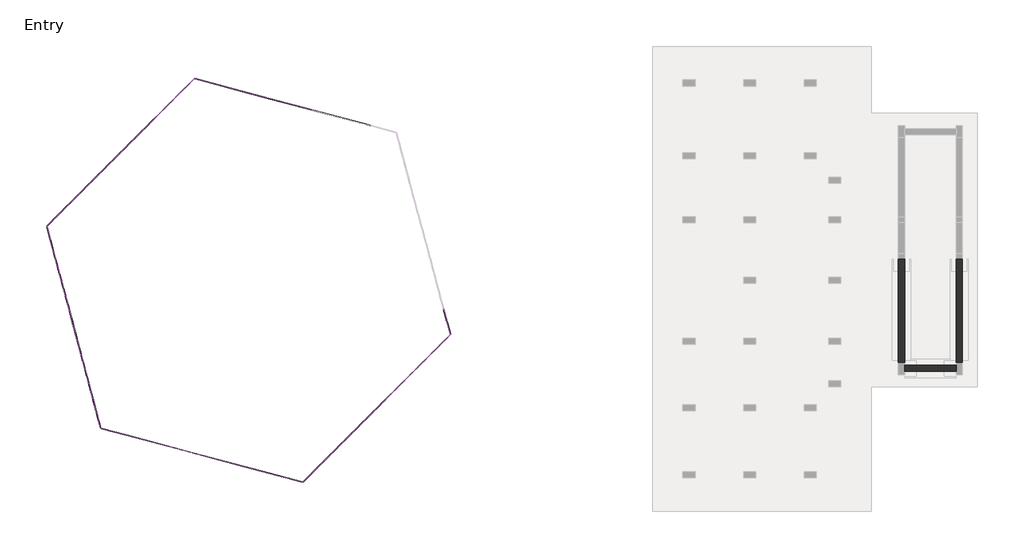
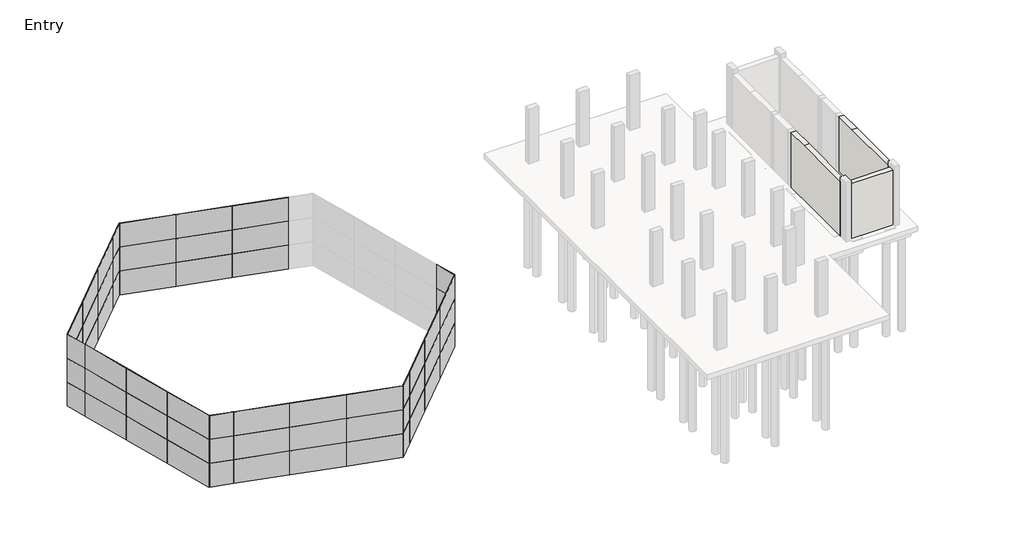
# One storey, part 1 of 4: 105 plates, 3 walls.
"""IFC4 building model written with IfcOpenShell, lengths in millimetres."""

from ifc_helpers import new_model, si_unit, frame, origin, origin_with_axes, place, context, project, spatial, polyline, outline, extrude, transform, mapped, element, save
from components import system_panel_glazed_1e57f9bb, system_panel_glazed_41de1ca9

model = new_model("IFC4")

# Units and contexts
model_context = context("Model", 3, world=origin())
ifc_project = project(units=[si_unit("LENGTHUNIT", "METRE", prefix="MILLI")], contexts=[model_context])

# Site, building, storey
site = spatial("IfcSite", under=ifc_project)
building = spatial("IfcBuilding", under=site)
storey = spatial("IfcBuildingStorey", under=building, Name="Entry", Elevation=0.0)

# Plates
placement = place(None, origin())
system_panel_glazed_shape = system_panel_glazed_1e57f9bb(model_context)
element("IfcPlate", 1, ObjectType="System Panel : Glazed", at=placement, inside=storey, context=model_context, shape_type="MappedRepresentation", body=[
    mapped(system_panel_glazed_shape, transform((-38993.5918357, 9917.6121631, 0.0), x_axis=(0.9659258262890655, -0.25881904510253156, 0.0), y_axis=(0.25881904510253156, 0.9659258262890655, 0.0), z_axis=(0.0, 0.0, 1.0))),
])
element("IfcPlate", 2, ObjectType="System Panel : Glazed", at=placement, inside=storey, context=model_context, shape_type="MappedRepresentation", body=[
    mapped(system_panel_glazed_shape, transform((-28741.6935298, -3567.1783468, 0.0), x_axis=(-0.7071067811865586, -0.7071067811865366, 0.0), y_axis=(0.7071067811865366, -0.7071067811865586, 0.0), z_axis=(0.0, 0.0, 1.0))),
])
element("IfcPlate", 3, ObjectType="System Panel : Glazed", at=placement, inside=storey, context=model_context, shape_type="MappedRepresentation", body=[
    mapped(system_panel_glazed_shape, transform((-36049.449917, 9128.7317136, 0.0), x_axis=(0.9659258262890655, -0.25881904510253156, 0.0), y_axis=(0.25881904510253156, 0.9659258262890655, 0.0), z_axis=(0.0, 0.0, 1.0))),
])
element("IfcPlate", 4, ObjectType="System Panel : Glazed", at=placement, inside=storey, context=model_context, shape_type="MappedRepresentation", body=[
    mapped(system_panel_glazed_shape, transform((-33105.3079985, 8339.8512641, 0.0), x_axis=(0.9659258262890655, -0.25881904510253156, 0.0), y_axis=(0.25881904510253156, 0.9659258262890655, 0.0), z_axis=(0.0, 0.0, 1.0))),
])
element("IfcPlate", 5, ObjectType="System Panel : Glazed", at=placement, inside=storey, context=model_context, shape_type="MappedRepresentation", body=[
    mapped(system_panel_glazed_shape, transform((-38993.5918357, 9917.6121631, 1524.0), x_axis=(0.9659258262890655, -0.25881904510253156, 0.0), y_axis=(0.25881904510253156, 0.9659258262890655, 0.0), z_axis=(0.0, 0.0, 1.0))),
])
element("IfcPlate", 6, ObjectType="System Panel : Glazed", at=placement, inside=storey, context=model_context, shape_type="MappedRepresentation", body=[
    mapped(system_panel_glazed_shape, transform((-36049.449917, 9128.7317136, 1524.0), x_axis=(0.9659258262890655, -0.25881904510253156, 0.0), y_axis=(0.25881904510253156, 0.9659258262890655, 0.0), z_axis=(0.0, 0.0, 1.0))),
])
element("IfcPlate", 7, ObjectType="System Panel : Glazed", at=placement, inside=storey, context=model_context, shape_type="MappedRepresentation", body=[
    mapped(system_panel_glazed_shape, transform((-33105.3079985, 8339.8512641, 1524.0), x_axis=(0.9659258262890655, -0.25881904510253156, 0.0), y_axis=(0.25881904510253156, 0.9659258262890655, 0.0), z_axis=(0.0, 0.0, 1.0))),
])
element("IfcPlate", 8, ObjectType="System Panel : Glazed", at=placement, inside=storey, context=model_context, shape_type="MappedRepresentation", body=[
    mapped(system_panel_glazed_shape, transform((-38993.5918357, 9917.6121631, 3048.0), x_axis=(0.9659258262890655, -0.25881904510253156, 0.0), y_axis=(0.25881904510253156, 0.9659258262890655, 0.0), z_axis=(0.0, 0.0, 1.0))),
])
element("IfcPlate", 9, ObjectType="System Panel : Glazed", at=placement, inside=storey, context=model_context, shape_type="MappedRepresentation", body=[
    mapped(system_panel_glazed_shape, transform((-36049.449917, 9128.7317136, 3048.0), x_axis=(0.9659258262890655, -0.25881904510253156, 0.0), y_axis=(0.25881904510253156, 0.9659258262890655, 0.0), z_axis=(0.0, 0.0, 1.0))),
])
element("IfcPlate", 10, ObjectType="System Panel : Glazed", at=placement, inside=storey, context=model_context, shape_type="MappedRepresentation", body=[
    mapped(system_panel_glazed_shape, transform((-33105.3079985, 8339.8512641, 3048.0), x_axis=(0.9659258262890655, -0.25881904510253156, 0.0), y_axis=(0.25881904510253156, 0.9659258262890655, 0.0), z_axis=(0.0, 0.0, 1.0))),
])
element("IfcPlate", 11, ObjectType="System Panel : Glazed", at=placement, inside=storey, context=model_context, shape_type="MappedRepresentation", body=[
    mapped(system_panel_glazed_shape, transform((-30896.9549989, -5722.4398159, 0.0), x_axis=(-0.7071067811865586, -0.7071067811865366, 0.0), y_axis=(0.7071067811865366, -0.7071067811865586, 0.0), z_axis=(0.0, 0.0, 1.0))),
])
element("IfcPlate", 12, ObjectType="System Panel : Glazed", at=placement, inside=storey, context=model_context, shape_type="MappedRepresentation", body=[
    mapped(system_panel_glazed_shape, transform((-33052.216468, -7877.701285, 0.0), x_axis=(-0.7071067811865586, -0.7071067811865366, 0.0), y_axis=(0.7071067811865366, -0.7071067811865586, 0.0), z_axis=(0.0, 0.0, 1.0))),
])
element("IfcPlate", 13, ObjectType="System Panel : Glazed", at=placement, inside=storey, context=model_context, shape_type="MappedRepresentation", body=[
    mapped(system_panel_glazed_shape, transform((-28741.6935298, -3567.1783468, 1524.0), x_axis=(-0.7071067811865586, -0.7071067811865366, 0.0), y_axis=(0.7071067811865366, -0.7071067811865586, 0.0), z_axis=(0.0, 0.0, 1.0))),
])
element("IfcPlate", 14, ObjectType="System Panel : Glazed", at=placement, inside=storey, context=model_context, shape_type="MappedRepresentation", body=[
    mapped(system_panel_glazed_shape, transform((-30896.9549989, -5722.4398159, 1524.0), x_axis=(-0.7071067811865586, -0.7071067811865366, 0.0), y_axis=(0.7071067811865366, -0.7071067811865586, 0.0), z_axis=(0.0, 0.0, 1.0))),
])
element("IfcPlate", 15, ObjectType="System Panel : Glazed", at=placement, inside=storey, context=model_context, shape_type="MappedRepresentation", body=[
    mapped(system_panel_glazed_shape, transform((-33052.216468, -7877.701285, 1524.0), x_axis=(-0.7071067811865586, -0.7071067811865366, 0.0), y_axis=(0.7071067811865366, -0.7071067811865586, 0.0), z_axis=(0.0, 0.0, 1.0))),
])
element("IfcPlate", 16, ObjectType="System Panel : Glazed", at=placement, inside=storey, context=model_context, shape_type="MappedRepresentation", body=[
    mapped(system_panel_glazed_shape, transform((-28741.6935298, -3567.1783468, 3048.0), x_axis=(-0.7071067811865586, -0.7071067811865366, 0.0), y_axis=(0.7071067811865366, -0.7071067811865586, 0.0), z_axis=(0.0, 0.0, 1.0))),
])
element("IfcPlate", 17, ObjectType="System Panel : Glazed", at=placement, inside=storey, context=model_context, shape_type="MappedRepresentation", body=[
    mapped(system_panel_glazed_shape, transform((-30896.9549989, -5722.4398159, 3048.0), x_axis=(-0.7071067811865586, -0.7071067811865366, 0.0), y_axis=(0.7071067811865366, -0.7071067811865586, 0.0), z_axis=(0.0, 0.0, 1.0))),
])
element("IfcPlate", 18, ObjectType="System Panel : Glazed", at=placement, inside=storey, context=model_context, shape_type="MappedRepresentation", body=[
    mapped(system_panel_glazed_shape, transform((-33052.216468, -7877.701285, 3048.0), x_axis=(-0.7071067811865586, -0.7071067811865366, 0.0), y_axis=(0.7071067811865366, -0.7071067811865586, 0.0), z_axis=(0.0, 0.0, 1.0))),
])
element("IfcPlate", 19, ObjectType="System Panel : Glazed", at=placement, inside=storey, context=model_context, shape_type="MappedRepresentation", body=[
    mapped(system_panel_glazed_shape, transform((-36527.1409606, -9486.1145934, 0.0), x_axis=(-0.9659258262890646, 0.2588190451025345, 0.0), y_axis=(-0.2588190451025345, -0.9659258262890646, 0.0), z_axis=(0.0, 0.0, 1.0))),
])
element("IfcPlate", 20, ObjectType="System Panel : Glazed", at=placement, inside=storey, context=model_context, shape_type="MappedRepresentation", body=[
    mapped(system_panel_glazed_shape, transform((-28741.6935298, -3567.1783468, 0.0), x_axis=(-0.7071067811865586, -0.7071067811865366, 0.0), y_axis=(0.7071067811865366, -0.7071067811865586, 0.0), z_axis=(0.0, 0.0, 1.0))),
])
element("IfcPlate", 21, ObjectType="System Panel : Glazed", at=placement, inside=storey, context=model_context, shape_type="MappedRepresentation", body=[
    mapped(system_panel_glazed_shape, transform((-39471.2828793, -8697.2341439, 0.0), x_axis=(-0.9659258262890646, 0.2588190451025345, 0.0), y_axis=(-0.2588190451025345, -0.9659258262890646, 0.0), z_axis=(0.0, 0.0, 1.0))),
])
element("IfcPlate", 22, ObjectType="System Panel : Glazed", at=placement, inside=storey, context=model_context, shape_type="MappedRepresentation", body=[
    mapped(system_panel_glazed_shape, transform((-42415.4247978, -7908.3536944, 0.0), x_axis=(-0.9659258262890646, 0.2588190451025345, 0.0), y_axis=(-0.2588190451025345, -0.9659258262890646, 0.0), z_axis=(0.0, 0.0, 1.0))),
])
element("IfcPlate", 23, ObjectType="System Panel : Glazed", at=placement, inside=storey, context=model_context, shape_type="MappedRepresentation", body=[
    mapped(system_panel_glazed_shape, transform((-36527.1409606, -9486.1145934, 1524.0), x_axis=(-0.9659258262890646, 0.2588190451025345, 0.0), y_axis=(-0.2588190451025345, -0.9659258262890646, 0.0), z_axis=(0.0, 0.0, 1.0))),
])
element("IfcPlate", 24, ObjectType="System Panel : Glazed", at=placement, inside=storey, context=model_context, shape_type="MappedRepresentation", body=[
    mapped(system_panel_glazed_shape, transform((-39471.2828793, -8697.2341439, 1524.0), x_axis=(-0.9659258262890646, 0.2588190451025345, 0.0), y_axis=(-0.2588190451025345, -0.9659258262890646, 0.0), z_axis=(0.0, 0.0, 1.0))),
])
element("IfcPlate", 25, ObjectType="System Panel : Glazed", at=placement, inside=storey, context=model_context, shape_type="MappedRepresentation", body=[
    mapped(system_panel_glazed_shape, transform((-42415.4247978, -7908.3536944, 1524.0), x_axis=(-0.9659258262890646, 0.2588190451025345, 0.0), y_axis=(-0.2588190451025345, -0.9659258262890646, 0.0), z_axis=(0.0, 0.0, 1.0))),
])
element("IfcPlate", 26, ObjectType="System Panel : Glazed", at=placement, inside=storey, context=model_context, shape_type="MappedRepresentation", body=[
    mapped(system_panel_glazed_shape, transform((-36527.1409606, -9486.1145934, 3048.0), x_axis=(-0.9659258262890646, 0.2588190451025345, 0.0), y_axis=(-0.2588190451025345, -0.9659258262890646, 0.0), z_axis=(0.0, 0.0, 1.0))),
])
element("IfcPlate", 27, ObjectType="System Panel : Glazed", at=placement, inside=storey, context=model_context, shape_type="MappedRepresentation", body=[
    mapped(system_panel_glazed_shape, transform((-39471.2828793, -8697.2341439, 3048.0), x_axis=(-0.9659258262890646, 0.2588190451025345, 0.0), y_axis=(-0.2588190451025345, -0.9659258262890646, 0.0), z_axis=(0.0, 0.0, 1.0))),
])
element("IfcPlate", 28, ObjectType="System Panel : Glazed", at=placement, inside=storey, context=model_context, shape_type="MappedRepresentation", body=[
    mapped(system_panel_glazed_shape, transform((-42415.4247978, -7908.3536944, 3048.0), x_axis=(-0.9659258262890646, 0.2588190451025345, 0.0), y_axis=(-0.2588190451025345, -0.9659258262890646, 0.0), z_axis=(0.0, 0.0, 1.0))),
])
element("IfcPlate", 29, ObjectType="System Panel : Glazed", at=placement, inside=storey, context=model_context, shape_type="MappedRepresentation", body=[
    mapped(system_panel_glazed_shape, transform((-30896.9549989, -5722.4398159, 0.0), x_axis=(-0.7071067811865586, -0.7071067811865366, 0.0), y_axis=(0.7071067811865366, -0.7071067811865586, 0.0), z_axis=(0.0, 0.0, 1.0))),
])
element("IfcPlate", 30, ObjectType="System Panel : Glazed", at=placement, inside=storey, context=model_context, shape_type="MappedRepresentation", body=[
    mapped(system_panel_glazed_shape, transform((-33052.216468, -7877.701285, 0.0), x_axis=(-0.7071067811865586, -0.7071067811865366, 0.0), y_axis=(0.7071067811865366, -0.7071067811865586, 0.0), z_axis=(0.0, 0.0, 1.0))),
])
element("IfcPlate", 31, ObjectType="System Panel : Glazed", at=placement, inside=storey, context=model_context, shape_type="MappedRepresentation", body=[
    mapped(system_panel_glazed_shape, transform((-28741.6935298, -3567.1783468, 1524.0), x_axis=(-0.7071067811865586, -0.7071067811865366, 0.0), y_axis=(0.7071067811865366, -0.7071067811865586, 0.0), z_axis=(0.0, 0.0, 1.0))),
])
element("IfcPlate", 32, ObjectType="System Panel : Glazed", at=placement, inside=storey, context=model_context, shape_type="MappedRepresentation", body=[
    mapped(system_panel_glazed_shape, transform((-30896.9549989, -5722.4398159, 1524.0), x_axis=(-0.7071067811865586, -0.7071067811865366, 0.0), y_axis=(0.7071067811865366, -0.7071067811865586, 0.0), z_axis=(0.0, 0.0, 1.0))),
])
element("IfcPlate", 33, ObjectType="System Panel : Glazed", at=placement, inside=storey, context=model_context, shape_type="MappedRepresentation", body=[
    mapped(system_panel_glazed_shape, transform((-33052.216468, -7877.701285, 1524.0), x_axis=(-0.7071067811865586, -0.7071067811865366, 0.0), y_axis=(0.7071067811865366, -0.7071067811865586, 0.0), z_axis=(0.0, 0.0, 1.0))),
])
element("IfcPlate", 34, ObjectType="System Panel : Glazed", at=placement, inside=storey, context=model_context, shape_type="MappedRepresentation", body=[
    mapped(system_panel_glazed_shape, transform((-28741.6935298, -3567.1783468, 3048.0), x_axis=(-0.7071067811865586, -0.7071067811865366, 0.0), y_axis=(0.7071067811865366, -0.7071067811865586, 0.0), z_axis=(0.0, 0.0, 1.0))),
])
element("IfcPlate", 35, ObjectType="System Panel : Glazed", at=placement, inside=storey, context=model_context, shape_type="MappedRepresentation", body=[
    mapped(system_panel_glazed_shape, transform((-30896.9549989, -5722.4398159, 3048.0), x_axis=(-0.7071067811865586, -0.7071067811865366, 0.0), y_axis=(0.7071067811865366, -0.7071067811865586, 0.0), z_axis=(0.0, 0.0, 1.0))),
])
element("IfcPlate", 36, ObjectType="System Panel : Glazed", at=placement, inside=storey, context=model_context, shape_type="MappedRepresentation", body=[
    mapped(system_panel_glazed_shape, transform((-33052.216468, -7877.701285, 3048.0), x_axis=(-0.7071067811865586, -0.7071067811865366, 0.0), y_axis=(0.7071067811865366, -0.7071067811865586, 0.0), z_axis=(0.0, 0.0, 1.0))),
])
element("IfcPlate", 37, ObjectType="System Panel : Glazed", at=placement, inside=storey, context=model_context, shape_type="MappedRepresentation", body=[
    mapped(system_panel_glazed_shape, transform((-38993.5918357, 9917.6121631, 0.0), x_axis=(0.9659258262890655, -0.25881904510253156, 0.0), y_axis=(0.25881904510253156, 0.9659258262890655, 0.0), z_axis=(0.0, 0.0, 1.0))),
])
element("IfcPlate", 38, ObjectType="System Panel : Glazed", at=placement, inside=storey, context=model_context, shape_type="MappedRepresentation", body=[
    mapped(system_panel_glazed_shape, transform((-46779.0392665, 3998.6759164, 0.0), x_axis=(0.7071067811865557, 0.7071067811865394, 0.0), y_axis=(-0.7071067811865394, 0.7071067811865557, 0.0), z_axis=(0.0, 0.0, 1.0))),
])
element("IfcPlate", 39, ObjectType="System Panel : Glazed", at=placement, inside=storey, context=model_context, shape_type="MappedRepresentation", body=[
    mapped(system_panel_glazed_shape, transform((-45545.813829, -5703.1874618, 0.0), x_axis=(-0.2588190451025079, 0.9659258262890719, 0.0), y_axis=(-0.9659258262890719, -0.2588190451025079, 0.0), z_axis=(0.0, 0.0, 1.0))),
])
element("IfcPlate", 40, ObjectType="System Panel : Glazed", at=placement, inside=storey, context=model_context, shape_type="MappedRepresentation", body=[
    mapped(system_panel_glazed_shape, transform((-36049.449917, 9128.7317136, 0.0), x_axis=(0.9659258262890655, -0.25881904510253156, 0.0), y_axis=(0.25881904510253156, 0.9659258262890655, 0.0), z_axis=(0.0, 0.0, 1.0))),
])
element("IfcPlate", 41, ObjectType="System Panel : Glazed", at=placement, inside=storey, context=model_context, shape_type="MappedRepresentation", body=[
    mapped(system_panel_glazed_shape, transform((-33105.3079985, 8339.8512641, 0.0), x_axis=(0.9659258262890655, -0.25881904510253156, 0.0), y_axis=(0.25881904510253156, 0.9659258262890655, 0.0), z_axis=(0.0, 0.0, 1.0))),
])
element("IfcPlate", 42, ObjectType="System Panel : Glazed", at=placement, inside=storey, context=model_context, shape_type="MappedRepresentation", body=[
    mapped(system_panel_glazed_shape, transform((-38993.5918357, 9917.6121631, 1524.0), x_axis=(0.9659258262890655, -0.25881904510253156, 0.0), y_axis=(0.25881904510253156, 0.9659258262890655, 0.0), z_axis=(0.0, 0.0, 1.0))),
])
element("IfcPlate", 43, ObjectType="System Panel : Glazed", at=placement, inside=storey, context=model_context, shape_type="MappedRepresentation", body=[
    mapped(system_panel_glazed_shape, transform((-36049.449917, 9128.7317136, 1524.0), x_axis=(0.9659258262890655, -0.25881904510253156, 0.0), y_axis=(0.25881904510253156, 0.9659258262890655, 0.0), z_axis=(0.0, 0.0, 1.0))),
])
element("IfcPlate", 44, ObjectType="System Panel : Glazed", at=placement, inside=storey, context=model_context, shape_type="MappedRepresentation", body=[
    mapped(system_panel_glazed_shape, transform((-33105.3079985, 8339.8512641, 1524.0), x_axis=(0.9659258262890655, -0.25881904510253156, 0.0), y_axis=(0.25881904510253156, 0.9659258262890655, 0.0), z_axis=(0.0, 0.0, 1.0))),
])
element("IfcPlate", 45, ObjectType="System Panel : Glazed", at=placement, inside=storey, context=model_context, shape_type="MappedRepresentation", body=[
    mapped(system_panel_glazed_shape, transform((-38993.5918357, 9917.6121631, 3048.0), x_axis=(0.9659258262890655, -0.25881904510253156, 0.0), y_axis=(0.25881904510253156, 0.9659258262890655, 0.0), z_axis=(0.0, 0.0, 1.0))),
])
element("IfcPlate", 46, ObjectType="System Panel : Glazed", at=placement, inside=storey, context=model_context, shape_type="MappedRepresentation", body=[
    mapped(system_panel_glazed_shape, transform((-36049.449917, 9128.7317136, 3048.0), x_axis=(0.9659258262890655, -0.25881904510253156, 0.0), y_axis=(0.25881904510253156, 0.9659258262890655, 0.0), z_axis=(0.0, 0.0, 1.0))),
])
element("IfcPlate", 47, ObjectType="System Panel : Glazed", at=placement, inside=storey, context=model_context, shape_type="MappedRepresentation", body=[
    mapped(system_panel_glazed_shape, transform((-33105.3079985, 8339.8512641, 3048.0), x_axis=(0.9659258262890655, -0.25881904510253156, 0.0), y_axis=(0.25881904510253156, 0.9659258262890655, 0.0), z_axis=(0.0, 0.0, 1.0))),
])
element("IfcPlate", 48, ObjectType="System Panel : Glazed", at=placement, inside=storey, context=model_context, shape_type="MappedRepresentation", body=[
    mapped(system_panel_glazed_shape, transform((-44623.7777974, 6153.9373856, 0.0), x_axis=(0.7071067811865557, 0.7071067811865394, 0.0), y_axis=(-0.7071067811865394, 0.7071067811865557, 0.0), z_axis=(0.0, 0.0, 1.0))),
])
element("IfcPlate", 49, ObjectType="System Panel : Glazed", at=placement, inside=storey, context=model_context, shape_type="MappedRepresentation", body=[
    mapped(system_panel_glazed_shape, transform((-42468.5163283, 8309.1988547, 0.0), x_axis=(0.7071067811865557, 0.7071067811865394, 0.0), y_axis=(-0.7071067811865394, 0.7071067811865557, 0.0), z_axis=(0.0, 0.0, 1.0))),
])
element("IfcPlate", 50, ObjectType="System Panel : Glazed", at=placement, inside=storey, context=model_context, shape_type="MappedRepresentation", body=[
    mapped(system_panel_glazed_shape, transform((-46779.0392665, 3998.6759164, 1524.0), x_axis=(0.7071067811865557, 0.7071067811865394, 0.0), y_axis=(-0.7071067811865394, 0.7071067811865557, 0.0), z_axis=(0.0, 0.0, 1.0))),
])
element("IfcPlate", 51, ObjectType="System Panel : Glazed", at=placement, inside=storey, context=model_context, shape_type="MappedRepresentation", body=[
    mapped(system_panel_glazed_shape, transform((-44623.7777974, 6153.9373856, 1524.0), x_axis=(0.7071067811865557, 0.7071067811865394, 0.0), y_axis=(-0.7071067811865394, 0.7071067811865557, 0.0), z_axis=(0.0, 0.0, 1.0))),
])
element("IfcPlate", 52, ObjectType="System Panel : Glazed", at=placement, inside=storey, context=model_context, shape_type="MappedRepresentation", body=[
    mapped(system_panel_glazed_shape, transform((-42468.5163283, 8309.1988547, 1524.0), x_axis=(0.7071067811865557, 0.7071067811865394, 0.0), y_axis=(-0.7071067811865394, 0.7071067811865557, 0.0), z_axis=(0.0, 0.0, 1.0))),
])
element("IfcPlate", 53, ObjectType="System Panel : Glazed", at=placement, inside=storey, context=model_context, shape_type="MappedRepresentation", body=[
    mapped(system_panel_glazed_shape, transform((-46779.0392665, 3998.6759164, 3048.0), x_axis=(0.7071067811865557, 0.7071067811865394, 0.0), y_axis=(-0.7071067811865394, 0.7071067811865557, 0.0), z_axis=(0.0, 0.0, 1.0))),
])
element("IfcPlate", 54, ObjectType="System Panel : Glazed", at=placement, inside=storey, context=model_context, shape_type="MappedRepresentation", body=[
    mapped(system_panel_glazed_shape, transform((-44623.7777974, 6153.9373856, 3048.0), x_axis=(0.7071067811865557, 0.7071067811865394, 0.0), y_axis=(-0.7071067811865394, 0.7071067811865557, 0.0), z_axis=(0.0, 0.0, 1.0))),
])
element("IfcPlate", 55, ObjectType="System Panel : Glazed", at=placement, inside=storey, context=model_context, shape_type="MappedRepresentation", body=[
    mapped(system_panel_glazed_shape, transform((-42468.5163283, 8309.1988547, 3048.0), x_axis=(0.7071067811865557, 0.7071067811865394, 0.0), y_axis=(-0.7071067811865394, 0.7071067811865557, 0.0), z_axis=(0.0, 0.0, 1.0))),
])
element("IfcPlate", 56, ObjectType="System Panel : Glazed", at=placement, inside=storey, context=model_context, shape_type="MappedRepresentation", body=[
    mapped(system_panel_glazed_shape, transform((-46334.6942785, -2759.0455431, 0.0), x_axis=(-0.2588190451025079, 0.9659258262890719, 0.0), y_axis=(-0.9659258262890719, -0.2588190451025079, 0.0), z_axis=(0.0, 0.0, 1.0))),
])
element("IfcPlate", 57, ObjectType="System Panel : Glazed", at=placement, inside=storey, context=model_context, shape_type="MappedRepresentation", body=[
    mapped(system_panel_glazed_shape, transform((-47123.574728, 185.0963754, 0.0), x_axis=(-0.2588190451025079, 0.9659258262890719, 0.0), y_axis=(-0.9659258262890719, -0.2588190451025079, 0.0), z_axis=(0.0, 0.0, 1.0))),
])
element("IfcPlate", 58, ObjectType="System Panel : Glazed", at=placement, inside=storey, context=model_context, shape_type="MappedRepresentation", body=[
    mapped(system_panel_glazed_shape, transform((-45545.813829, -5703.1874618, 1524.0), x_axis=(-0.2588190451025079, 0.9659258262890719, 0.0), y_axis=(-0.9659258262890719, -0.2588190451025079, 0.0), z_axis=(0.0, 0.0, 1.0))),
])
element("IfcPlate", 59, ObjectType="System Panel : Glazed", at=placement, inside=storey, context=model_context, shape_type="MappedRepresentation", body=[
    mapped(system_panel_glazed_shape, transform((-46334.6942785, -2759.0455431, 1524.0), x_axis=(-0.2588190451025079, 0.9659258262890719, 0.0), y_axis=(-0.9659258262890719, -0.2588190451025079, 0.0), z_axis=(0.0, 0.0, 1.0))),
])
element("IfcPlate", 60, ObjectType="System Panel : Glazed", at=placement, inside=storey, context=model_context, shape_type="MappedRepresentation", body=[
    mapped(system_panel_glazed_shape, transform((-47123.574728, 185.0963754, 1524.0), x_axis=(-0.2588190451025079, 0.9659258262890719, 0.0), y_axis=(-0.9659258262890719, -0.2588190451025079, 0.0), z_axis=(0.0, 0.0, 1.0))),
])
element("IfcPlate", 61, ObjectType="System Panel : Glazed", at=placement, inside=storey, context=model_context, shape_type="MappedRepresentation", body=[
    mapped(system_panel_glazed_shape, transform((-45545.813829, -5703.1874618, 3048.0), x_axis=(-0.2588190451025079, 0.9659258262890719, 0.0), y_axis=(-0.9659258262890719, -0.2588190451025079, 0.0), z_axis=(0.0, 0.0, 1.0))),
])
element("IfcPlate", 62, ObjectType="System Panel : Glazed", at=placement, inside=storey, context=model_context, shape_type="MappedRepresentation", body=[
    mapped(system_panel_glazed_shape, transform((-46334.6942785, -2759.0455431, 3048.0), x_axis=(-0.2588190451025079, 0.9659258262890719, 0.0), y_axis=(-0.9659258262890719, -0.2588190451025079, 0.0), z_axis=(0.0, 0.0, 1.0))),
])
element("IfcPlate", 63, ObjectType="System Panel : Glazed", at=placement, inside=storey, context=model_context, shape_type="MappedRepresentation", body=[
    mapped(system_panel_glazed_shape, transform((-47123.574728, 185.0963754, 3048.0), x_axis=(-0.2588190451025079, 0.9659258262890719, 0.0), y_axis=(-0.9659258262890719, -0.2588190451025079, 0.0), z_axis=(0.0, 0.0, 1.0))),
])
element("IfcPlate", 64, ObjectType="System Panel : Glazed", at=placement, inside=storey, context=model_context, shape_type="MappedRepresentation", body=[
    mapped(system_panel_glazed_shape, transform((-38993.5918357, 9917.6121631, 0.0), x_axis=(0.9659258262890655, -0.25881904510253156, 0.0), y_axis=(0.25881904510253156, 0.9659258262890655, 0.0), z_axis=(0.0, 0.0, 1.0))),
])
element("IfcPlate", 65, ObjectType="System Panel : Glazed", at=placement, inside=storey, context=model_context, shape_type="MappedRepresentation", body=[
    mapped(system_panel_glazed_shape, transform((-46779.0392665, 3998.6759164, 0.0), x_axis=(0.7071067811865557, 0.7071067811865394, 0.0), y_axis=(-0.7071067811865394, 0.7071067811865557, 0.0), z_axis=(0.0, 0.0, 1.0))),
])
element("IfcPlate", 66, ObjectType="System Panel : Glazed", at=placement, inside=storey, context=model_context, shape_type="MappedRepresentation", body=[
    mapped(system_panel_glazed_shape, transform((-36049.449917, 9128.7317136, 0.0), x_axis=(0.9659258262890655, -0.25881904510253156, 0.0), y_axis=(0.25881904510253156, 0.9659258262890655, 0.0), z_axis=(0.0, 0.0, 1.0))),
])
element("IfcPlate", 67, ObjectType="System Panel : Glazed", at=placement, inside=storey, context=model_context, shape_type="MappedRepresentation", body=[
    mapped(system_panel_glazed_shape, transform((-38993.5918357, 9917.6121631, 1524.0), x_axis=(0.9659258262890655, -0.25881904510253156, 0.0), y_axis=(0.25881904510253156, 0.9659258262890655, 0.0), z_axis=(0.0, 0.0, 1.0))),
])
element("IfcPlate", 68, ObjectType="System Panel : Glazed", at=placement, inside=storey, context=model_context, shape_type="MappedRepresentation", body=[
    mapped(system_panel_glazed_shape, transform((-36049.449917, 9128.7317136, 1524.0), x_axis=(0.9659258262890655, -0.25881904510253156, 0.0), y_axis=(0.25881904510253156, 0.9659258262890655, 0.0), z_axis=(0.0, 0.0, 1.0))),
])
element("IfcPlate", 69, ObjectType="System Panel : Glazed", at=placement, inside=storey, context=model_context, shape_type="MappedRepresentation", body=[
    mapped(system_panel_glazed_shape, transform((-38993.5918357, 9917.6121631, 3048.0), x_axis=(0.9659258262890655, -0.25881904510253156, 0.0), y_axis=(0.25881904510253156, 0.9659258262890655, 0.0), z_axis=(0.0, 0.0, 1.0))),
])
element("IfcPlate", 70, ObjectType="System Panel : Glazed", at=placement, inside=storey, context=model_context, shape_type="MappedRepresentation", body=[
    mapped(system_panel_glazed_shape, transform((-36049.449917, 9128.7317136, 3048.0), x_axis=(0.9659258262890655, -0.25881904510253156, 0.0), y_axis=(0.25881904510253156, 0.9659258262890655, 0.0), z_axis=(0.0, 0.0, 1.0))),
])
element("IfcPlate", 71, ObjectType="System Panel : Glazed", at=placement, inside=storey, context=model_context, shape_type="MappedRepresentation", body=[
    mapped(system_panel_glazed_shape, transform((-44623.7777974, 6153.9373856, 0.0), x_axis=(0.7071067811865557, 0.7071067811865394, 0.0), y_axis=(-0.7071067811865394, 0.7071067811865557, 0.0), z_axis=(0.0, 0.0, 1.0))),
])
element("IfcPlate", 72, ObjectType="System Panel : Glazed", at=placement, inside=storey, context=model_context, shape_type="MappedRepresentation", body=[
    mapped(system_panel_glazed_shape, transform((-42468.5163283, 8309.1988547, 0.0), x_axis=(0.7071067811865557, 0.7071067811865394, 0.0), y_axis=(-0.7071067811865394, 0.7071067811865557, 0.0), z_axis=(0.0, 0.0, 1.0))),
])
element("IfcPlate", 73, ObjectType="System Panel : Glazed", at=placement, inside=storey, context=model_context, shape_type="MappedRepresentation", body=[
    mapped(system_panel_glazed_shape, transform((-46779.0392665, 3998.6759164, 1524.0), x_axis=(0.7071067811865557, 0.7071067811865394, 0.0), y_axis=(-0.7071067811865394, 0.7071067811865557, 0.0), z_axis=(0.0, 0.0, 1.0))),
])
element("IfcPlate", 74, ObjectType="System Panel : Glazed", at=placement, inside=storey, context=model_context, shape_type="MappedRepresentation", body=[
    mapped(system_panel_glazed_shape, transform((-44623.7777974, 6153.9373856, 1524.0), x_axis=(0.7071067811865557, 0.7071067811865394, 0.0), y_axis=(-0.7071067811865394, 0.7071067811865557, 0.0), z_axis=(0.0, 0.0, 1.0))),
])
element("IfcPlate", 75, ObjectType="System Panel : Glazed", at=placement, inside=storey, context=model_context, shape_type="MappedRepresentation", body=[
    mapped(system_panel_glazed_shape, transform((-42468.5163283, 8309.1988547, 1524.0), x_axis=(0.7071067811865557, 0.7071067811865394, 0.0), y_axis=(-0.7071067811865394, 0.7071067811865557, 0.0), z_axis=(0.0, 0.0, 1.0))),
])
element("IfcPlate", 76, ObjectType="System Panel : Glazed", at=placement, inside=storey, context=model_context, shape_type="MappedRepresentation", body=[
    mapped(system_panel_glazed_shape, transform((-46779.0392665, 3998.6759164, 3048.0), x_axis=(0.7071067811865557, 0.7071067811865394, 0.0), y_axis=(-0.7071067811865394, 0.7071067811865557, 0.0), z_axis=(0.0, 0.0, 1.0))),
])
element("IfcPlate", 77, ObjectType="System Panel : Glazed", at=placement, inside=storey, context=model_context, shape_type="MappedRepresentation", body=[
    mapped(system_panel_glazed_shape, transform((-44623.7777974, 6153.9373856, 3048.0), x_axis=(0.7071067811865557, 0.7071067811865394, 0.0), y_axis=(-0.7071067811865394, 0.7071067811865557, 0.0), z_axis=(0.0, 0.0, 1.0))),
])
element("IfcPlate", 78, ObjectType="System Panel : Glazed", at=placement, inside=storey, context=model_context, shape_type="MappedRepresentation", body=[
    mapped(system_panel_glazed_shape, transform((-42468.5163283, 8309.1988547, 3048.0), x_axis=(0.7071067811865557, 0.7071067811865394, 0.0), y_axis=(-0.7071067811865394, 0.7071067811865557, 0.0), z_axis=(0.0, 0.0, 1.0))),
])
system_panel_glazed_2_shape = system_panel_glazed_41de1ca9(model_context)
element("IfcPlate", 79, ObjectType="System Panel : Glazed", at=placement, inside=storey, context=model_context, shape_type="MappedRepresentation", body=[
    mapped(system_panel_glazed_2_shape, transform((-34592.4586018, -9417.9434189, 0.0), x_axis=(-0.7071067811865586, -0.7071067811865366, 0.0), y_axis=(0.7071067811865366, -0.7071067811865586, 0.0), z_axis=(0.0, 0.0, 1.0))),
])
element("IfcPlate", 80, ObjectType="System Panel : Glazed", at=placement, inside=storey, context=model_context, shape_type="MappedRepresentation", body=[
    mapped(system_panel_glazed_2_shape, transform((-34592.4586018, -9417.9434189, 1524.0), x_axis=(-0.7071067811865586, -0.7071067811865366, 0.0), y_axis=(0.7071067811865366, -0.7071067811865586, 0.0), z_axis=(0.0, 0.0, 1.0))),
])
element("IfcPlate", 81, ObjectType="System Panel : Glazed", at=placement, inside=storey, context=model_context, shape_type="MappedRepresentation", body=[
    mapped(system_panel_glazed_2_shape, transform((-34592.4586018, -9417.9434189, 3048.0), x_axis=(-0.7071067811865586, -0.7071067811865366, 0.0), y_axis=(0.7071067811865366, -0.7071067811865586, 0.0), z_axis=(0.0, 0.0, 1.0))),
])
element("IfcPlate", 82, ObjectType="System Panel : Glazed", at=placement, inside=storey, context=model_context, shape_type="MappedRepresentation", body=[
    mapped(system_panel_glazed_2_shape, transform((-27833.3903194, -1857.6086886, 0.0), x_axis=(0.25881904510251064, -0.965925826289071, 0.0), y_axis=(0.965925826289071, 0.25881904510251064, 0.0), z_axis=(0.0, 0.0, 1.0))),
])
element("IfcPlate", 83, ObjectType="System Panel : Glazed", at=placement, inside=storey, context=model_context, shape_type="MappedRepresentation", body=[
    mapped(system_panel_glazed_2_shape, transform((-27833.3903194, -1857.6086886, 1524.0), x_axis=(0.25881904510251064, -0.965925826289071, 0.0), y_axis=(0.965925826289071, 0.25881904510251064, 0.0), z_axis=(0.0, 0.0, 1.0))),
])
element("IfcPlate", 84, ObjectType="System Panel : Glazed", at=placement, inside=storey, context=model_context, shape_type="MappedRepresentation", body=[
    mapped(system_panel_glazed_2_shape, transform((-27833.3903194, -1857.6086886, 3048.0), x_axis=(0.25881904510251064, -0.965925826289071, 0.0), y_axis=(0.965925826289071, 0.25881904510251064, 0.0), z_axis=(0.0, 0.0, 1.0))),
])
element("IfcPlate", 85, ObjectType="System Panel : Glazed", at=placement, inside=storey, context=model_context, shape_type="MappedRepresentation", body=[
    mapped(system_panel_glazed_2_shape, transform((-27833.3903194, -1857.6086886, 0.0), x_axis=(0.25881904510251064, -0.965925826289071, 0.0), y_axis=(0.965925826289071, 0.25881904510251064, 0.0), z_axis=(0.0, 0.0, 1.0))),
])
element("IfcPlate", 86, ObjectType="System Panel : Glazed", at=placement, inside=storey, context=model_context, shape_type="MappedRepresentation", body=[
    mapped(system_panel_glazed_2_shape, transform((-27833.3903194, -1857.6086886, 1524.0), x_axis=(0.25881904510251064, -0.965925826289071, 0.0), y_axis=(0.965925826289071, 0.25881904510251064, 0.0), z_axis=(0.0, 0.0, 1.0))),
])
element("IfcPlate", 87, ObjectType="System Panel : Glazed", at=placement, inside=storey, context=model_context, shape_type="MappedRepresentation", body=[
    mapped(system_panel_glazed_2_shape, transform((-27833.3903194, -1857.6086886, 3048.0), x_axis=(0.25881904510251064, -0.965925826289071, 0.0), y_axis=(0.965925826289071, 0.25881904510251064, 0.0), z_axis=(0.0, 0.0, 1.0))),
])
element("IfcPlate", 88, ObjectType="System Panel : Glazed", at=placement, inside=storey, context=model_context, shape_type="MappedRepresentation", body=[
    mapped(system_panel_glazed_2_shape, transform((-44519.4346806, -7344.5859455, 0.0), x_axis=(-0.9659258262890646, 0.2588190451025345, 0.0), y_axis=(-0.2588190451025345, -0.9659258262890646, 0.0), z_axis=(0.0, 0.0, 1.0))),
])
element("IfcPlate", 89, ObjectType="System Panel : Glazed", at=placement, inside=storey, context=model_context, shape_type="MappedRepresentation", body=[
    mapped(system_panel_glazed_2_shape, transform((-44519.4346806, -7344.5859455, 1524.0), x_axis=(-0.9659258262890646, 0.2588190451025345, 0.0), y_axis=(-0.2588190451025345, -0.9659258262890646, 0.0), z_axis=(0.0, 0.0, 1.0))),
])
element("IfcPlate", 90, ObjectType="System Panel : Glazed", at=placement, inside=storey, context=model_context, shape_type="MappedRepresentation", body=[
    mapped(system_panel_glazed_2_shape, transform((-44519.4346806, -7344.5859455, 3048.0), x_axis=(-0.9659258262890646, 0.2588190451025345, 0.0), y_axis=(-0.2588190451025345, -0.9659258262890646, 0.0), z_axis=(0.0, 0.0, 1.0))),
])
element("IfcPlate", 91, ObjectType="System Panel : Glazed", at=placement, inside=storey, context=model_context, shape_type="MappedRepresentation", body=[
    mapped(system_panel_glazed_2_shape, transform((-34592.4586018, -9417.9434189, 0.0), x_axis=(-0.7071067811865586, -0.7071067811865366, 0.0), y_axis=(0.7071067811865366, -0.7071067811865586, 0.0), z_axis=(0.0, 0.0, 1.0))),
])
element("IfcPlate", 92, ObjectType="System Panel : Glazed", at=placement, inside=storey, context=model_context, shape_type="MappedRepresentation", body=[
    mapped(system_panel_glazed_2_shape, transform((-34592.4586018, -9417.9434189, 1524.0), x_axis=(-0.7071067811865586, -0.7071067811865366, 0.0), y_axis=(0.7071067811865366, -0.7071067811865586, 0.0), z_axis=(0.0, 0.0, 1.0))),
])
element("IfcPlate", 93, ObjectType="System Panel : Glazed", at=placement, inside=storey, context=model_context, shape_type="MappedRepresentation", body=[
    mapped(system_panel_glazed_2_shape, transform((-34592.4586018, -9417.9434189, 3048.0), x_axis=(-0.7071067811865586, -0.7071067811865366, 0.0), y_axis=(0.7071067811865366, -0.7071067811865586, 0.0), z_axis=(0.0, 0.0, 1.0))),
])
element("IfcPlate", 94, ObjectType="System Panel : Glazed", at=placement, inside=storey, context=model_context, shape_type="MappedRepresentation", body=[
    mapped(system_panel_glazed_2_shape, transform((-40928.2741945, 9849.4409885, 0.0), x_axis=(0.7071067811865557, 0.7071067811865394, 0.0), y_axis=(-0.7071067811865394, 0.7071067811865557, 0.0), z_axis=(0.0, 0.0, 1.0))),
])
element("IfcPlate", 95, ObjectType="System Panel : Glazed", at=placement, inside=storey, context=model_context, shape_type="MappedRepresentation", body=[
    mapped(system_panel_glazed_2_shape, transform((-40928.2741945, 9849.4409885, 1524.0), x_axis=(0.7071067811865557, 0.7071067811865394, 0.0), y_axis=(-0.7071067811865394, 0.7071067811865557, 0.0), z_axis=(0.0, 0.0, 1.0))),
])
element("IfcPlate", 96, ObjectType="System Panel : Glazed", at=placement, inside=storey, context=model_context, shape_type="MappedRepresentation", body=[
    mapped(system_panel_glazed_2_shape, transform((-40928.2741945, 9849.4409885, 3048.0), x_axis=(0.7071067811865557, 0.7071067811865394, 0.0), y_axis=(-0.7071067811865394, 0.7071067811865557, 0.0), z_axis=(0.0, 0.0, 1.0))),
])
element("IfcPlate", 97, ObjectType="System Panel : Glazed", at=placement, inside=storey, context=model_context, shape_type="MappedRepresentation", body=[
    mapped(system_panel_glazed_2_shape, transform((-47687.3424769, 2289.1062582, 0.0), x_axis=(-0.2588190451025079, 0.9659258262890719, 0.0), y_axis=(-0.9659258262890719, -0.2588190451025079, 0.0), z_axis=(0.0, 0.0, 1.0))),
])
element("IfcPlate", 98, ObjectType="System Panel : Glazed", at=placement, inside=storey, context=model_context, shape_type="MappedRepresentation", body=[
    mapped(system_panel_glazed_2_shape, transform((-47687.3424769, 2289.1062582, 1524.0), x_axis=(-0.2588190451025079, 0.9659258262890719, 0.0), y_axis=(-0.9659258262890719, -0.2588190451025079, 0.0), z_axis=(0.0, 0.0, 1.0))),
])
element("IfcPlate", 99, ObjectType="System Panel : Glazed", at=placement, inside=storey, context=model_context, shape_type="MappedRepresentation", body=[
    mapped(system_panel_glazed_2_shape, transform((-47687.3424769, 2289.1062582, 3048.0), x_axis=(-0.2588190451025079, 0.9659258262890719, 0.0), y_axis=(-0.9659258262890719, -0.2588190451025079, 0.0), z_axis=(0.0, 0.0, 1.0))),
])
element("IfcPlate", 100, ObjectType="System Panel : Glazed", at=placement, inside=storey, context=model_context, shape_type="MappedRepresentation", body=[
    mapped(system_panel_glazed_2_shape, transform((-40928.2741945, 9849.4409885, 0.0), x_axis=(0.7071067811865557, 0.7071067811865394, 0.0), y_axis=(-0.7071067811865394, 0.7071067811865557, 0.0), z_axis=(0.0, 0.0, 1.0))),
])
element("IfcPlate", 101, ObjectType="System Panel : Glazed", at=placement, inside=storey, context=model_context, shape_type="MappedRepresentation", body=[
    mapped(system_panel_glazed_2_shape, transform((-40928.2741945, 9849.4409885, 1524.0), x_axis=(0.7071067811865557, 0.7071067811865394, 0.0), y_axis=(-0.7071067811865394, 0.7071067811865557, 0.0), z_axis=(0.0, 0.0, 1.0))),
])
element("IfcPlate", 102, ObjectType="System Panel : Glazed", at=placement, inside=storey, context=model_context, shape_type="MappedRepresentation", body=[
    mapped(system_panel_glazed_2_shape, transform((-40928.2741945, 9849.4409885, 3048.0), x_axis=(0.7071067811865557, 0.7071067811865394, 0.0), y_axis=(-0.7071067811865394, 0.7071067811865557, 0.0), z_axis=(0.0, 0.0, 1.0))),
])
element("IfcPlate", 103, ObjectType="System Panel : Glazed", at=placement, inside=storey, context=model_context, shape_type="MappedRepresentation", body=[
    mapped(system_panel_glazed_2_shape, transform((-27833.3903194, -1857.6086886, 0.0), x_axis=(0.25881904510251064, -0.965925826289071, 0.0), y_axis=(0.965925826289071, 0.25881904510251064, 0.0), z_axis=(0.0, 0.0, 1.0))),
])
element("IfcPlate", 104, ObjectType="System Panel : Glazed", at=placement, inside=storey, context=model_context, shape_type="MappedRepresentation", body=[
    mapped(system_panel_glazed_2_shape, transform((-27833.3903194, -1857.6086886, 1524.0), x_axis=(0.25881904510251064, -0.965925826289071, 0.0), y_axis=(0.965925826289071, 0.25881904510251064, 0.0), z_axis=(0.0, 0.0, 1.0))),
])
element("IfcPlate", 105, ObjectType="System Panel : Glazed", at=placement, inside=storey, context=model_context, shape_type="MappedRepresentation", body=[
    mapped(system_panel_glazed_2_shape, transform((-27833.3903194, -1857.6086886, 3048.0), x_axis=(0.25881904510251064, -0.965925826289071, 0.0), y_axis=(0.965925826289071, 0.25881904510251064, 0.0), z_axis=(0.0, 0.0, 1.0))),
])

# Walls
element("IfcWall", 106, ObjectType="Core-Shaft - 12\" Concrete", at=placement, inside=storey, context=model_context, shape_type="SweptSolid", body=[
    extrude(outline(polyline([(1282.5487848, 0.0), (-3899.0512152, 0.0), (-3899.0512152, 3505.2), (-89.0512152, 3505.2), (1282.5487848, 3505.2), (1282.5487848, 0.0)])), frame((-2251.1663981, 0.0, 0.0), z_axis=(1.0, 0.0, 0.0), x_axis=(0.0, 1.0, 0.0)), (0.0, 0.0, 1.0), 304.8),
])
element("IfcWall", 107, ObjectType="Core-Shaft - 12\" Concrete", at=placement, inside=storey, context=model_context, shape_type="SweptSolid", body=[
    extrude(outline(polyline([(1282.5487848, 0.0), (-3899.0512152, 0.0), (-3899.0512152, 3505.2), (-89.0512152, 3505.2), (1282.5487848, 3505.2), (1282.5487848, 0.0)])), frame((-5146.7663981, 0.0, 0.0), z_axis=(1.0, 0.0, 0.0), x_axis=(0.0, 1.0, 0.0)), (0.0, 0.0, 1.0), 304.8),
])
element("IfcWall", 108, ObjectType="Core-Shaft - 12\" Concrete", at=placement, inside=storey, context=model_context, shape_type="SweptSolid", body=[
    extrude(outline(polyline([(-2251.1663981, -4356.2512152), (-4841.9663981, -4356.2512152), (-4841.9663981, -4051.4512152), (-2251.1663981, -4051.4512152), (-2251.1663981, -4356.2512152)])), origin_with_axes(), (0.0, 0.0, 1.0), 3505.2),
])

save(model, "model.ifc")
